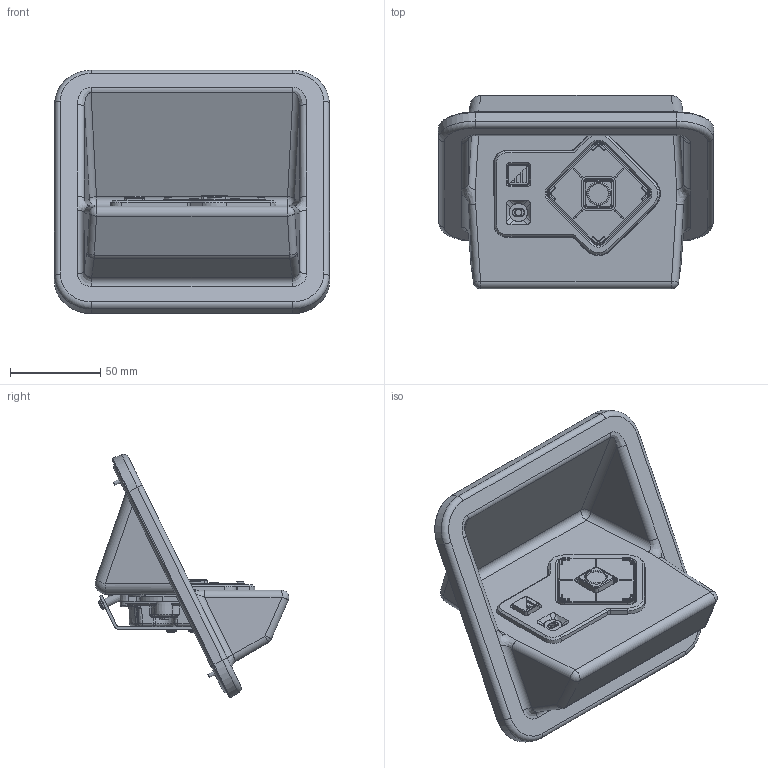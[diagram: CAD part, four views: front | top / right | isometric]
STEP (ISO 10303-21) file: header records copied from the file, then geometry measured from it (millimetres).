
FILE_DESCRIPTION (( 'STEP AP214' ), '1' );
FILE_NAME ('1406-35011-MPH.STEP', '2024-07-17T10:18:22', ( '' ), ( '' ), 'SwSTEP 2.0', 'SolidWorks 2024', '' );
FILE_SCHEMA (( 'AUTOMOTIVE_DESIGN' ));
Length unit declared in the file: millimetre
Products named in the file (1): 1406-35011-MPH
Bounding box: 153.13 x 107.55 x 135.17 mm (x, y, z)
Volume: 209136.3 mm3; surface area: 170185.5 mm2
Topology: 5 solids, 29 shells, 4263 faces, 10841 edges, 6725 vertices
Faces by surface type: plane 1698, cylinder 908, bspline 759, cone 465, torus 309, sphere 124
Full cylindrical faces by diameter (mm): 1.5 x1, 2.4 x15, 3.2 x7, 5.3 x6, 5.695 x3, 8 x5, 10.347 x1, 11 x1
Entity records: 155470 total; most frequent: CARTESIAN_POINT 61082, ORIENTED_EDGE 21016, DIRECTION 17523, EDGE_CURVE 10508, VERTEX_POINT 6632, AXIS2_PLACEMENT_3D 6173, VECTOR 5177, LINE 5177
